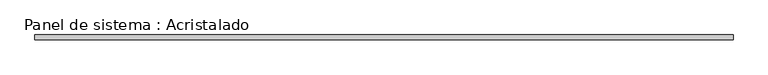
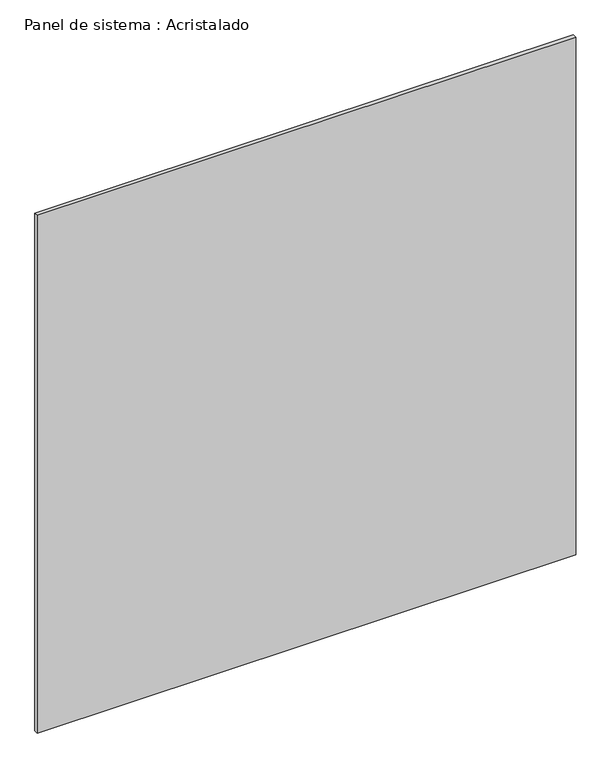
"""IFC4 building model written with IfcOpenShell, lengths in millimetres: plate geometry, Panel de sistema : Acristalado."""

from ifc_helpers import new_model, si_unit, origin, origin_with_axes, place, context, project, spatial, polyline, outline, extrude, source, transform, mapped, element, save


def panel_de_sistema_acristalado_84c5b434(model_context):
    return source(origin(), model_context, "Body", "SweptSolid", [
        extrude(outline(polyline([(1387.2672414, -10.0), (-1387.2672414, -10.0), (-1387.2672414, 10.0), (1387.2672414, 10.0), (1387.2672414, -10.0)])), origin_with_axes(), (0.0, 0.0, 1.0), 2820.0),
    ])


if __name__ == "__main__":
    model = new_model("IFC4")
    model_context = context("Model", 3, world=origin())
    ifc_project = project(units=[si_unit("LENGTHUNIT", "METRE", prefix="MILLI")], contexts=[model_context])
    site = spatial("IfcSite", under=ifc_project)
    building = spatial("IfcBuilding", under=site)
    placement = place(None, origin())
    panel_de_sistema_acristalado_shape = panel_de_sistema_acristalado_84c5b434(model_context)
    element("IfcPlate", 1, ObjectType="Panel de sistema : Acristalado", at=placement, inside=building, context=model_context, shape_type="MappedRepresentation", body=[
        mapped(panel_de_sistema_acristalado_shape, transform((0.0, 0.0, 0.0), x_axis=(1.0, 0.0, 0.0), y_axis=(0.0, 1.0, 0.0), z_axis=(0.0, 0.0, 1.0))),
    ])
    save(model, "model.ifc")
